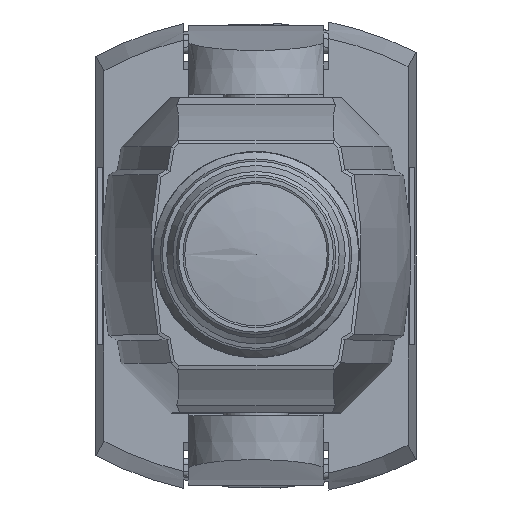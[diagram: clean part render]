
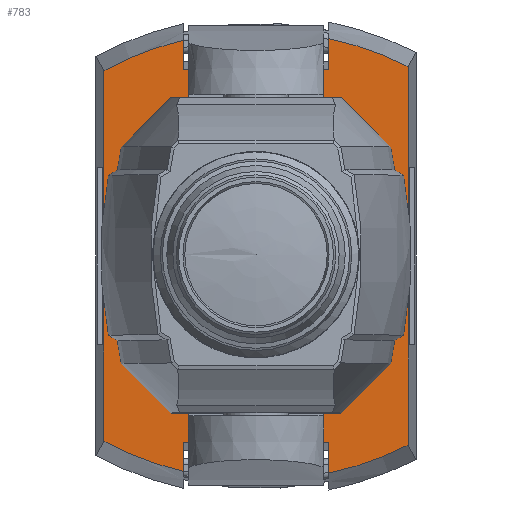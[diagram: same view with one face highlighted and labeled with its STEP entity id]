
A CAD part, top view. The second image highlights one B-rep face of the part: STEP entity #783.
In plain terms, the highlighted planar face has unit normal (0, 0, 1).
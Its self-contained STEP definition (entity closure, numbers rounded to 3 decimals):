
#783 = ADVANCED_FACE( '', ( #1583, #1584 ), #1585, .F. );
#1583 = FACE_BOUND( '', #2761, .T. );
#1584 = FACE_OUTER_BOUND( '', #2762, .T. );
#1585 = PLANE( '', #2763 );
#2761 = EDGE_LOOP( '', ( #4526 ) );
#2762 = EDGE_LOOP( '', ( #4527, #4528, #4529, #4530, #4531, #4532, #4533, #4534, #4535, #4536, #4537, #4538 ) );
#2763 = AXIS2_PLACEMENT_3D( '', #4539, #4540, #4541 );
#4526 = ORIENTED_EDGE( '', *, *, #4928, .T. );
#4527 = ORIENTED_EDGE( '', *, *, #5124, .T. );
#4528 = ORIENTED_EDGE( '', *, *, #5468, .T. );
#4529 = ORIENTED_EDGE( '', *, *, #5142, .T. );
#4530 = ORIENTED_EDGE( '', *, *, #5469, .T. );
#4531 = ORIENTED_EDGE( '', *, *, #5121, .T. );
#4532 = ORIENTED_EDGE( '', *, *, #5109, .F. );
#4533 = ORIENTED_EDGE( '', *, *, #5245, .T. );
#4534 = ORIENTED_EDGE( '', *, *, #5441, .F. );
#4535 = ORIENTED_EDGE( '', *, *, #4888, .F. );
#4536 = ORIENTED_EDGE( '', *, *, #5457, .F. );
#4537 = ORIENTED_EDGE( '', *, *, #5241, .T. );
#4538 = ORIENTED_EDGE( '', *, *, #5438, .F. );
#4539 = CARTESIAN_POINT( '', ( 0., 0., 93. ) );
#4540 = DIRECTION( '', ( 0., 0., -1. ) );
#4541 = DIRECTION( '', ( -1., 0., 0. ) );
#4888 = EDGE_CURVE( '', #5747, #5748, #5749, .F. );
#4928 = EDGE_CURVE( '', #5816, #5816, #5817, .T. );
#5109 = EDGE_CURVE( '', #6106, #6107, #6108, .T. );
#5121 = EDGE_CURVE( '', #6128, #6107, #6129, .F. );
#5124 = EDGE_CURVE( '', #6133, #6131, #6134, .F. );
#5142 = EDGE_CURVE( '', #6161, #6162, #6163, .T. );
#5241 = EDGE_CURVE( '', #6308, #6306, #6309, .F. );
#5245 = EDGE_CURVE( '', #6106, #6314, #6316, .F. );
#5438 = EDGE_CURVE( '', #6133, #6306, #6561, .T. );
#5441 = EDGE_CURVE( '', #5748, #6314, #6564, .T. );
#5457 = EDGE_CURVE( '', #6308, #5747, #6582, .T. );
#5468 = EDGE_CURVE( '', #6131, #6161, #6593, .T. );
#5469 = EDGE_CURVE( '', #6162, #6128, #6594, .T. );
#5747 = VERTEX_POINT( '', #7169 );
#5748 = VERTEX_POINT( '', #7170 );
#5749 = LINE( '', #7171, #7172 );
#5816 = VERTEX_POINT( '', #7270 );
#5817 = CIRCLE( '', #7271, 30. );
#6106 = VERTEX_POINT( '', #7991 );
#6107 = VERTEX_POINT( '', #7992 );
#6108 = LINE( '', #7993, #7994 );
#6128 = VERTEX_POINT( '', #8030 );
#6129 = CIRCLE( '', #8031, 330.011 );
#6131 = VERTEX_POINT( '', #8036 );
#6133 = VERTEX_POINT( '', #8041 );
#6134 = CIRCLE( '', #8042, 330.011 );
#6161 = VERTEX_POINT( '', #8104 );
#6162 = VERTEX_POINT( '', #8105 );
#6163 = LINE( '', #8106, #8107 );
#6306 = VERTEX_POINT( '', #8316 );
#6308 = VERTEX_POINT( '', #8321 );
#6309 = CIRCLE( '', #8322, 330.011 );
#6314 = VERTEX_POINT( '', #8330 );
#6316 = CIRCLE( '', #8335, 330.011 );
#6561 = LINE( '', #8885, #8886 );
#6564 = LINE( '', #8910, #8911 );
#6582 = LINE( '', #8977, #8978 );
#6593 = LINE( '', #9011, #9012 );
#6594 = LINE( '', #9013, #9014 );
#7169 = CARTESIAN_POINT( '', ( 73.212, -187.223, 93. ) );
#7170 = CARTESIAN_POINT( '', ( -73.212, -187.223, 93. ) );
#7171 = CARTESIAN_POINT( '', ( 0., -187.223, 93. ) );
#7172 = VECTOR( '', #9194, 1000. );
#7270 = CARTESIAN_POINT( '', ( 0., -30., 93. ) );
#7271 = AXIS2_PLACEMENT_3D( '', #9241, #9242, #9243 );
#7991 = CARTESIAN_POINT( '', ( -152.864, -186.324, 93. ) );
#7992 = CARTESIAN_POINT( '', ( -152.864, 186.324, 93. ) );
#7993 = CARTESIAN_POINT( '', ( -152.864, 0., 93. ) );
#7994 = VECTOR( '', #9412, 1000. );
#8030 = CARTESIAN_POINT( '', ( -73.212, 216.778, 93. ) );
#8031 = AXIS2_PLACEMENT_3D( '', #9423, #9424, #9425 );
#8036 = CARTESIAN_POINT( '', ( 73.212, 218.521, 93. ) );
#8041 = CARTESIAN_POINT( '', ( 152.864, 190.329, 93. ) );
#8042 = AXIS2_PLACEMENT_3D( '', #9426, #9427, #9428 );
#8104 = CARTESIAN_POINT( '', ( 73.212, 187.223, 93. ) );
#8105 = CARTESIAN_POINT( '', ( -73.212, 187.223, 93. ) );
#8106 = CARTESIAN_POINT( '', ( 0., 187.223, 93. ) );
#8107 = VECTOR( '', #9442, 1000. );
#8316 = CARTESIAN_POINT( '', ( 152.864, -190.329, 93. ) );
#8321 = CARTESIAN_POINT( '', ( 73.212, -218.521, 93. ) );
#8322 = AXIS2_PLACEMENT_3D( '', #9535, #9536, #9537 );
#8330 = CARTESIAN_POINT( '', ( -73.212, -216.778, 93. ) );
#8335 = AXIS2_PLACEMENT_3D( '', #9541, #9542, #9543 );
#8885 = CARTESIAN_POINT( '', ( 152.864, 0., 93. ) );
#8886 = VECTOR( '', #9683, 1000. );
#8910 = CARTESIAN_POINT( '', ( -73.212, -203.273, 93. ) );
#8911 = VECTOR( '', #9684, 1000. );
#8977 = CARTESIAN_POINT( '', ( 73.212, -195.359, 93. ) );
#8978 = VECTOR( '', #9696, 1000. );
#9011 = CARTESIAN_POINT( '', ( 73.212, 195.359, 93. ) );
#9012 = VECTOR( '', #9698, 1000. );
#9013 = CARTESIAN_POINT( '', ( -73.212, 203.273, 93. ) );
#9014 = VECTOR( '', #9699, 1000. );
#9194 = DIRECTION( '', ( 1., 0., 0. ) );
#9241 = CARTESIAN_POINT( '', ( 0., 0., 93. ) );
#9242 = DIRECTION( '', ( 0., 0., -1. ) );
#9243 = DIRECTION( '', ( 0., -1., 0. ) );
#9412 = DIRECTION( '', ( 0., 1., 0. ) );
#9423 = CARTESIAN_POINT( '', ( 3.831, -104.114, 93. ) );
#9424 = DIRECTION( '', ( 0., 0., -1. ) );
#9425 = DIRECTION( '', ( -1., 0., 0. ) );
#9426 = CARTESIAN_POINT( '', ( 3.831, -104.114, 93. ) );
#9427 = DIRECTION( '', ( 0., 0., -1. ) );
#9428 = DIRECTION( '', ( -1., 0., 0. ) );
#9442 = DIRECTION( '', ( -1., 0., 0. ) );
#9535 = CARTESIAN_POINT( '', ( 3.831, 104.114, 93. ) );
#9536 = DIRECTION( '', ( 0., 0., -1. ) );
#9537 = DIRECTION( '', ( -1., 0., 0. ) );
#9541 = CARTESIAN_POINT( '', ( 3.831, 104.114, 93. ) );
#9542 = DIRECTION( '', ( 0., 0., -1. ) );
#9543 = DIRECTION( '', ( -1., 0., 0. ) );
#9683 = DIRECTION( '', ( 0., -1., 0. ) );
#9684 = DIRECTION( '', ( 0., -1., 0. ) );
#9696 = DIRECTION( '', ( 0., 1., 0. ) );
#9698 = DIRECTION( '', ( 0., -1., 0. ) );
#9699 = DIRECTION( '', ( 0., 1., 0. ) );
